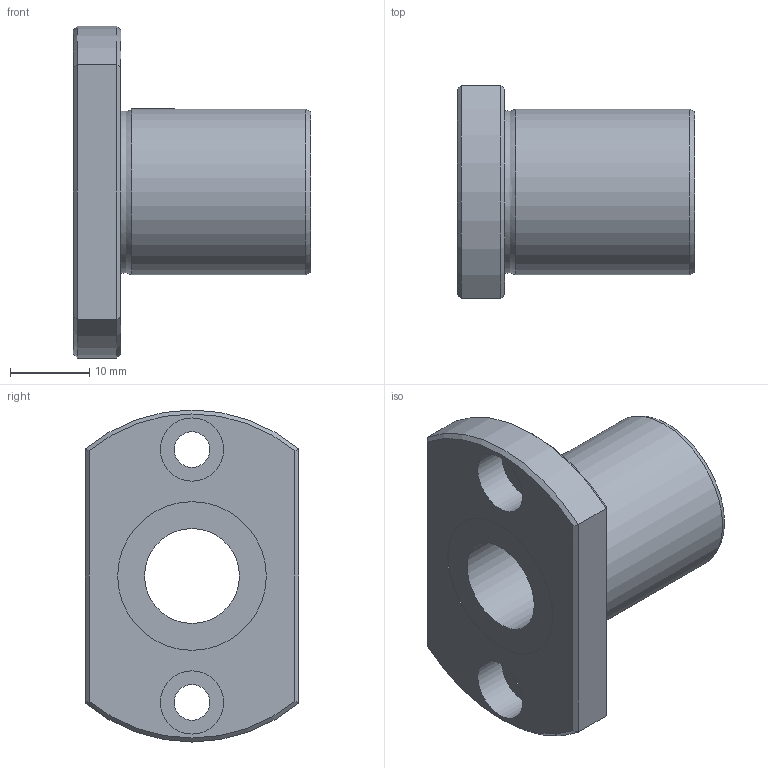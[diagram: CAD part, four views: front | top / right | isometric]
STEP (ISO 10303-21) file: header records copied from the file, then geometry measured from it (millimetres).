
FILE_DESCRIPTION((''),'2;1');
FILE_NAME('D:\製品 (図面)\カタログ用3D\リニアベアリング関連\STEP形式\LFT\LFT12.stp','2010-06-04T09:16:15',('Tsuchiya'),(''),'Autodesk Inventor 10','Autodesk Inventor 10','');
FILE_SCHEMA(('AUTOMOTIVE_DESIGN { 1 0 10303 214 1 1 1 1 }'));
Length unit declared in the file: millimetre
Products named in the file (1): LFT12
Bounding box: 30 x 27 x 42 mm (x, y, z)
Volume: 10642.8 mm3; surface area: 5457.5 mm2
Topology: 1 solids, 1 shells, 29 faces, 56 edges, 34 vertices
Faces by surface type: plane 13, cylinder 10, cone 4, torus 1, bspline 1
Full cylindrical faces by diameter (mm): 4.5 x2, 8 x2, 12 x1, 18.8 x2, 21 x1
Entity records: 787 total; most frequent: CARTESIAN_POINT 196, DIRECTION 122, ORIENTED_EDGE 92, AXIS2_PLACEMENT_3D 55, EDGE_LOOP 50, EDGE_CURVE 46, VERTEX_POINT 34, FACE_OUTER_BOUND 29
